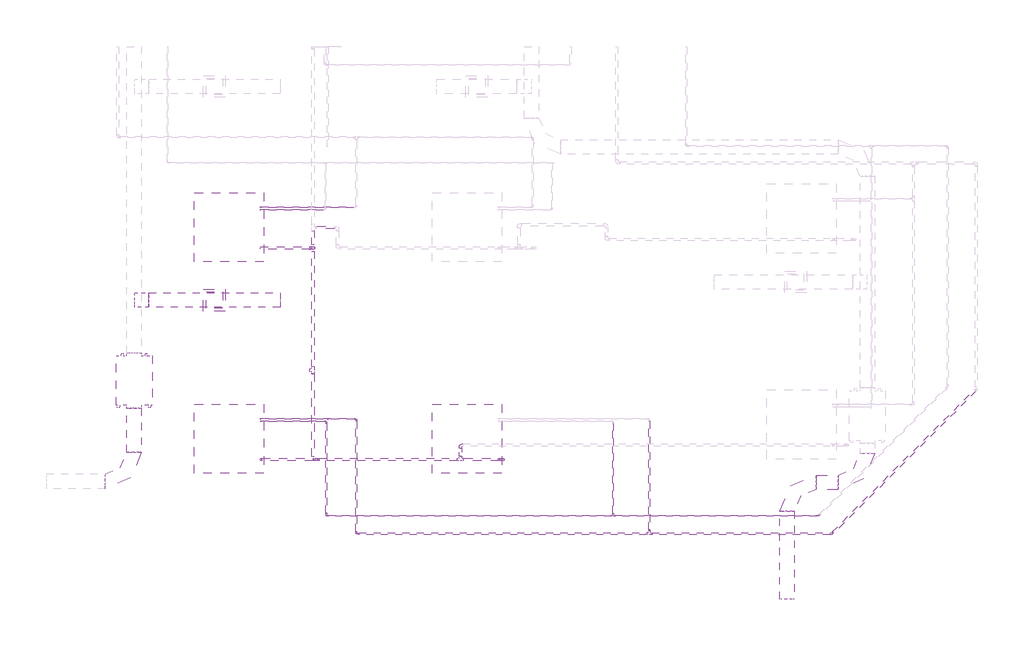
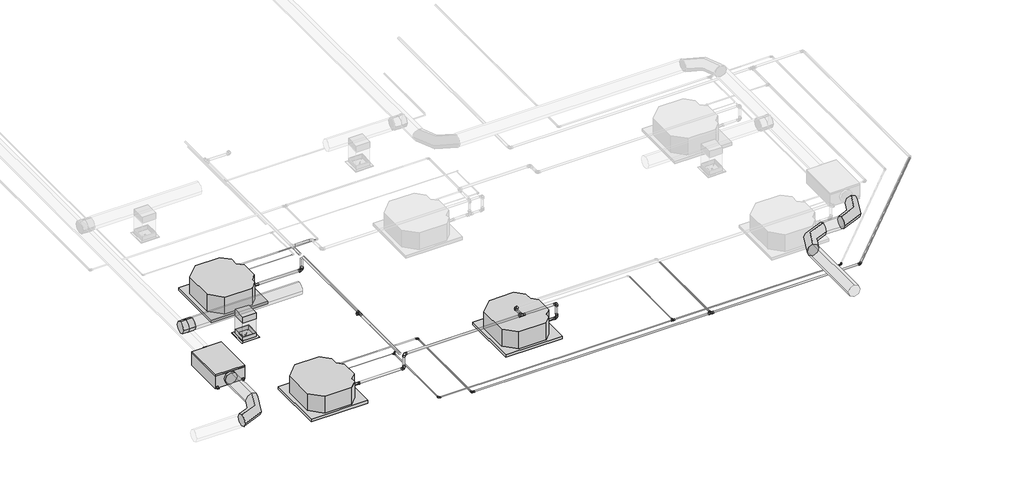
# One storey, part 9 of 21: 28 pipe fittings, 26 pipe segments, 5 duct fittings, 5 duct segments, 4 proxies, 1 air terminal.
"""IFC4 building model written with IfcOpenShell, lengths in millimetres."""

from ifc_helpers import new_model, si_unit, point, frame, frame_2d, origin, place, context, project, spatial, polyline, circle_curve, trimmed, segment, composite_curve, outline, extrude, transform, mapped, element, save
from components import sdq3535_a75e83f7, mechanical_equipment_53173f38, fh_fh_200_396573c7, duct_fitting_1aed30ea, duct_fitting_4c01d837, duct_fitting_2_d_646eede3, pipe_fitting_e2d793b1, pipe_fitting_535881cf, pipe_fitting_3e2a63ee, pipe_fitting_ec53ccd8, pipe_fitting_738abc8c, pipe_fitting_6f49f867, pipe_fitting_5bd27a37, pipe_fitting_182e23ec, pipe_fitting_5f087375, pipe_fitting_c900cfc2, pipe_fitting_16c020f5, pipe_fitting_b10472de, pipe_fitting_a9265b51, pipe_fitting_501e5992, pipe_fitting_59d1f3e3, pipe_fitting_648138cd, pipe_fitting_58ab9b66, pipe_fitting_ae0032d9, pipe_fitting_af483176, pipe_fitting_cbda5a7c

model = new_model("IFC4")

# Units and contexts
model_context = context("Model", 3, world=origin())
ifc_project = project(units=[si_unit("LENGTHUNIT", "METRE", prefix="MILLI")], contexts=[model_context])

# Site, building, storey
site = spatial("IfcSite", under=ifc_project)
building = spatial("IfcBuilding", under=site)
storey = spatial("IfcBuildingStorey", under=building, Name="Nível 1", Elevation=0.0)

# Air terminal
placement = place(None, origin())
sdq3535_shape = sdq3535_a75e83f7(model_context)
element("IfcAirTerminal", 1, ObjectType="11 - Difusor Quadrado : SDQ3535", at=placement, inside=storey, context=model_context, shape_type="MappedRepresentation", body=[
    mapped(sdq3535_shape, transform((20342.4289049, -5817.2774901, 3000.0), x_axis=(0.0, -1.0, 0.0), y_axis=(1.0, 0.0, 0.0), z_axis=(0.0, 0.0, 1.0))),
])

# Proxies
mechanical_equipment_shape = mechanical_equipment_53173f38(model_context)
element("IfcBuildingElementProxy", 2, Name="Midea_VRF_Indoor_4-way Cassette_MI-90(100,112,140)Q4_DHN1-D (2nd DC) : MI2-140Q4DHN1", ObjectType="Midea_VRF_Indoor_4-way Cassette_MI-90(100,112,140)Q4_DHN1-D (2nd DC) : MI2-140Q4DHN1", at=placement, inside=storey, context=model_context, shape_type="MappedRepresentation", body=[
    mapped(mechanical_equipment_shape, transform((23805.0530733, -7716.980613, 3000.0), x_axis=(1.0, 0.0, 0.0), y_axis=(0.0, 1.0, 0.0), z_axis=(0.0, 0.0, 1.0))),
])
element("IfcBuildingElementProxy", 3, Name="Midea_VRF_Indoor_4-way Cassette_MI-90(100,112,140)Q4_DHN1-D (2nd DC) : MI2-140Q4DHN1", ObjectType="Midea_VRF_Indoor_4-way Cassette_MI-90(100,112,140)Q4_DHN1-D (2nd DC) : MI2-140Q4DHN1", at=placement, inside=storey, context=model_context, shape_type="MappedRepresentation", body=[
    mapped(mechanical_equipment_shape, transform((20543.048092, -7716.980613, 3000.0), x_axis=(1.0, 0.0, 0.0), y_axis=(0.0, 1.0, 0.0), z_axis=(0.0, 0.0, 1.0))),
])
element("IfcBuildingElementProxy", 4, Name="Midea_VRF_Indoor_4-way Cassette_MI-90(100,112,140)Q4_DHN1-D (2nd DC) : MI2-140Q4DHN1", ObjectType="Midea_VRF_Indoor_4-way Cassette_MI-90(100,112,140)Q4_DHN1-D (2nd DC) : MI2-140Q4DHN1", at=placement, inside=storey, context=model_context, shape_type="MappedRepresentation", body=[
    mapped(mechanical_equipment_shape, transform((20543.048092, -4816.980613, 3000.0), x_axis=(1.0, 0.0, 0.0), y_axis=(0.0, 1.0, 0.0), z_axis=(0.0, 0.0, 1.0))),
])
fh_fh_200_shape = fh_fh_200_396573c7(model_context)
element("IfcBuildingElementProxy", 5, Name="FH : FH 200", ObjectType="FH : FH 200", at=placement, inside=storey, context=model_context, shape_type="MappedRepresentation", body=[
    mapped(fh_fh_200_shape, transform((19241.8789049, -6918.7123683, 3400.0), x_axis=(1.0, 0.0, 0.0), y_axis=(0.0, 1.0, 0.0), z_axis=(0.0, 0.0, 1.0))),
])

# Duct fittings
duct_fitting_shape = duct_fitting_1aed30ea(model_context)
element("IfcDuctFitting", 6, ObjectType="M_Encaixe de duto redondo : Padrão", at=placement, inside=storey, context=model_context, shape_type="MappedRepresentation", body=[
    mapped(duct_fitting_shape, transform((19341.3789049, -5817.2774901, 3521.0), x_axis=(1.0, 0.0, 0.0), y_axis=(0.0, -1.0, 0.0), z_axis=(0.0, 0.0, -1.0))),
])
duct_fitting_2_shape = duct_fitting_4c01d837(model_context)
element("IfcDuctFitting", 7, ObjectType="M_Encaixe de duto retangular : Padrão", at=placement, inside=storey, context=model_context, shape_type="MappedRepresentation", body=[
    mapped(duct_fitting_2_shape, transform((20342.4289049, -5817.2774901, 3421.5), x_axis=(0.0, 0.0, -1.0), y_axis=(-1.0, 0.0, 0.0), z_axis=(0.0, 1.0, 0.0))),
])
duct_fitting_2_d_shape = duct_fitting_2_d_646eede3(model_context)
element("IfcDuctFitting", 8, ObjectType="M_Cotovelo redondo : 2 D", at=placement, inside=storey, context=model_context, shape_type="MappedRepresentation", body=[
    mapped(duct_fitting_2_d_shape, transform((19241.8789049, -8298.7123683, 3521.0), x_axis=(1.0, 0.0, 0.0), y_axis=(0.0, 1.0, 0.0), z_axis=(0.0, 0.0, 1.0))),
])
element("IfcDuctFitting", 9, ObjectType="M_Cotovelo redondo : 2 D", at=placement, inside=storey, context=model_context, shape_type="MappedRepresentation", body=[
    mapped(duct_fitting_2_d_shape, transform((29288.6034633, -8313.4180027, 3521.0), x_axis=(1.0, 0.0, 0.0), y_axis=(0.0, 1.0, 0.0), z_axis=(0.0, 0.0, 1.0))),
])
element("IfcDuctFitting", 10, ObjectType="M_Cotovelo redondo : 2 D", at=placement, inside=storey, context=model_context, shape_type="MappedRepresentation", body=[
    mapped(duct_fitting_2_d_shape, transform((28188.6034633, -8313.4180027, 3521.0), x_axis=(-1.0, 0.0, 0.0), y_axis=(0.0, -1.0, 0.0), z_axis=(0.0, 0.0, 1.0))),
])

# Duct segments
element("IfcDuctSegment", 11, ObjectType="Torneiras / Raio curto", at=placement, inside=storey, context=model_context, shape_type="SweptSolid", body=[
    extrude(outline(composite_curve([segment(trimmed(circle_curve(frame_2d((3521.0, 19241.8789049)), 99.5), [point((3521.0, 19142.3789049))], [point((3421.5, 19241.8789049))], False, "CARTESIAN"), True, "CONTINUOUS"), segment(trimmed(circle_curve(frame_2d((3521.0, 19241.8789049)), 99.5), [point((3421.5, 19241.8789049))], [point((3521.0, 19341.3789049))], False, "CARTESIAN"), True, "CONTINUOUS"), segment(trimmed(circle_curve(frame_2d((3521.0, 19241.8789049)), 99.5), [point((3521.0, 19341.3789049))], [point((3620.5, 19241.8789049))], False, "CARTESIAN"), True, "CONTINUOUS"), segment(trimmed(circle_curve(frame_2d((3521.0, 19241.8789049)), 99.5), [point((3620.5, 19241.8789049))], [point((3521.0, 19142.3789049))], False, "CARTESIAN"), True, "CONTINUOUS")], self_intersect=False)), frame((0.0, -7900.7123683, 0.0), z_axis=(0.0, 1.0, 0.0), x_axis=(0.0, 0.0, 1.0)), (0.0, 0.0, 1.0), 602.0),
])
element("IfcDuctSegment", 12, ObjectType="Torneiras / Raio curto", at=placement, inside=storey, context=model_context, shape_type="SweptSolid", body=[
    extrude(outline(composite_curve([segment(trimmed(circle_curve(frame_2d((-8313.4180027, 3521.0)), 99.5), [point((-8213.9180027, 3521.0))], [point((-8313.4180027, 3421.5))], False, "CARTESIAN"), True, "CONTINUOUS"), segment(trimmed(circle_curve(frame_2d((-8313.4180027, 3521.0)), 99.5), [point((-8313.4180027, 3421.5))], [point((-8412.9180027, 3521.0))], False, "CARTESIAN"), True, "CONTINUOUS"), segment(trimmed(circle_curve(frame_2d((-8313.4180027, 3521.0)), 99.5), [point((-8412.9180027, 3521.0))], [point((-8313.4180027, 3620.5))], False, "CARTESIAN"), True, "CONTINUOUS"), segment(trimmed(circle_curve(frame_2d((-8313.4180027, 3521.0)), 99.5), [point((-8313.4180027, 3620.5))], [point((-8213.9180027, 3521.0))], False, "CARTESIAN"), True, "CONTINUOUS")], self_intersect=False)), frame((28586.6034633, 0.0, 0.0), z_axis=(1.0, 0.0, 0.0), x_axis=(0.0, 1.0, 0.0)), (0.0, 0.0, 1.0), 304.0),
])
element("IfcDuctSegment", 13, ObjectType="Torneiras / Raio curto", at=placement, inside=storey, context=model_context, shape_type="SweptSolid", body=[
    extrude(outline(composite_curve([segment(trimmed(circle_curve(frame_2d((3521.0, 28188.6034633)), 99.5), [point((3521.0, 28089.1034633))], [point((3421.5, 28188.6034633))], False, "CARTESIAN"), True, "CONTINUOUS"), segment(trimmed(circle_curve(frame_2d((3521.0, 28188.6034633)), 99.5), [point((3421.5, 28188.6034633))], [point((3521.0, 28288.1034633))], False, "CARTESIAN"), True, "CONTINUOUS"), segment(trimmed(circle_curve(frame_2d((3521.0, 28188.6034633)), 99.5), [point((3521.0, 28288.1034633))], [point((3620.5, 28188.6034633))], False, "CARTESIAN"), True, "CONTINUOUS"), segment(trimmed(circle_curve(frame_2d((3521.0, 28188.6034633)), 99.5), [point((3620.5, 28188.6034633))], [point((3521.0, 28089.1034633))], False, "CARTESIAN"), True, "CONTINUOUS")], self_intersect=False)), frame((0.0, -9913.4180027, 0.0), z_axis=(0.0, 1.0, 0.0), x_axis=(0.0, 0.0, 1.0)), (0.0, 0.0, 1.0), 1202.0),
])
element("IfcDuctSegment", 14, ObjectType="Torneiras / Raio curto", at=placement, inside=storey, context=model_context, shape_type="SweptSolid", body=[
    extrude(outline(composite_curve([segment(trimmed(circle_curve(frame_2d((-5817.2774901, 3521.0)), 99.5), [point((-5916.7774901, 3521.0))], [point((-5817.2774901, 3620.5))], False, "CARTESIAN"), True, "CONTINUOUS"), segment(trimmed(circle_curve(frame_2d((-5817.2774901, 3521.0)), 99.5), [point((-5817.2774901, 3620.5))], [point((-5717.7774901, 3521.0))], False, "CARTESIAN"), True, "CONTINUOUS"), segment(trimmed(circle_curve(frame_2d((-5817.2774901, 3521.0)), 99.5), [point((-5717.7774901, 3521.0))], [point((-5817.2774901, 3421.5))], False, "CARTESIAN"), True, "CONTINUOUS"), segment(trimmed(circle_curve(frame_2d((-5817.2774901, 3521.0)), 99.5), [point((-5817.2774901, 3421.5))], [point((-5916.7774901, 3521.0))], False, "CARTESIAN"), True, "CONTINUOUS")], self_intersect=False)), frame((19442.9789049, 0.0, 0.0), z_axis=(1.0, 0.0, 0.0), x_axis=(0.0, 1.0, 0.0)), (0.0, 0.0, 1.0), 1798.9),
])
element("IfcDuctSegment", 15, ObjectType="Raios cotovelos / torneiras", at=placement, inside=storey, context=model_context, shape_type="SweptSolid", body=[
    extrude(outline(polyline([(20454.9289049, -5929.7774901), (20229.9289049, -5929.7774901), (20229.9289049, -5704.7774901), (20454.9289049, -5704.7774901), (20454.9289049, -5929.7774901)])), frame((0.0, 0.0, 3005.0), z_axis=(0.0, 0.0, 1.0), x_axis=(1.0, 0.0, 0.0)), (0.0, 0.0, 1.0), 314.9),
])

# Pipe fittings
pipe_fitting_shape = pipe_fitting_e2d793b1(model_context)
element("IfcPipeFitting", 16, ObjectType="Bucha de redução reta - Soldada - CU : Padrão", at=placement, inside=storey, context=model_context, shape_type="MappedRepresentation", body=[
    mapped(pipe_fitting_shape, transform((24297.0530815, -8001.980613, 3293.8685101), x_axis=(0.0, 0.0, 1.0), y_axis=(0.0, -1.0, 0.0), z_axis=(1.0, 0.0, 0.0))),
])
pipe_fitting_2_shape = pipe_fitting_535881cf(model_context)
element("IfcPipeFitting", 17, ObjectType="Cotovelo - Soldado - CU : Padrão", at=placement, inside=storey, context=model_context, shape_type="MappedRepresentation", body=[
    mapped(pipe_fitting_2_shape, transform((24297.0530815, -8001.980613, 3500.0), x_axis=(0.0, 0.0, 1.0), y_axis=(-1.0, 0.0, 0.0), z_axis=(0.0, -1.0, 0.0))),
])
element("IfcPipeFitting", 18, ObjectType="Cotovelo - Soldado - CU : Padrão", at=placement, inside=storey, context=model_context, shape_type="MappedRepresentation", body=[
    mapped(pipe_fitting_2_shape, transform((21736.9015024, -8001.980613, 3500.0), x_axis=(-1.0, 0.0, 0.0), y_axis=(0.0, 0.0, -1.0), z_axis=(0.0, -1.0, 0.0))),
])
element("IfcPipeFitting", 19, ObjectType="Cotovelo - Soldado - CU : Padrão", at=placement, inside=storey, context=model_context, shape_type="MappedRepresentation", body=[
    mapped(pipe_fitting_2_shape, transform((23713.6034631, -7804.1233987, 3500.0), x_axis=(-1.0, 0.0, 0.0), y_axis=(0.0, -1.0, 0.0), z_axis=(0.0, 0.0, 1.0))),
])
pipe_fitting_3_shape = pipe_fitting_3e2a63ee(model_context)
element("IfcPipeFitting", 20, ObjectType="Tê - Soldado - CU : Padrão", at=placement, inside=storey, context=model_context, shape_type="MappedRepresentation", body=[
    mapped(pipe_fitting_3_shape, transform((23713.6034631, -8001.980613, 3500.0), x_axis=(1.0, 0.0, 0.0), y_axis=(0.0, -1.0, 0.0), z_axis=(0.0, 0.0, -1.0))),
])
element("IfcPipeFitting", 21, ObjectType="Tê - Soldado - CU : Padrão", at=placement, inside=storey, context=model_context, shape_type="MappedRepresentation", body=[
    mapped(pipe_fitting_3_shape, transform((21695.3015024, -6776.8929123, 3500.0), x_axis=(0.0, 1.0, 0.0), y_axis=(1.0, 0.0, 0.0), z_axis=(0.0, 0.0, -1.0))),
])
pipe_fitting_4_shape = pipe_fitting_ec53ccd8(model_context)
element("IfcPipeFitting", 22, ObjectType="Bucha de redução reta - Soldada - CU : Padrão", at=placement, inside=storey, context=model_context, shape_type="MappedRepresentation", body=[
    mapped(pipe_fitting_4_shape, transform((20988.288092, -8001.980613, 3252.30828), x_axis=(-0.9999999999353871, 0.0, 1.1367754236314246e-05), y_axis=(0.0, -1.0, 0.0), z_axis=(1.1367754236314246e-05, 0.0, 0.9999999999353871))),
])
pipe_fitting_5_shape = pipe_fitting_738abc8c(model_context)
element("IfcPipeFitting", 23, ObjectType="Cotovelo - Soldado - CU : Padrão", at=placement, inside=storey, context=model_context, shape_type="MappedRepresentation", body=[
    mapped(pipe_fitting_5_shape, transform((24297.0530815, -8001.980613, 3252.3085101), x_axis=(1.0, 0.0, 0.0), y_axis=(0.0, 0.0, 1.0), z_axis=(0.0, -1.0, 0.0))),
])
pipe_fitting_6_shape = pipe_fitting_6f49f867(model_context)
element("IfcPipeFitting", 24, ObjectType="Cotovelo - Soldado - CU : Padrão", at=placement, inside=storey, context=model_context, shape_type="MappedRepresentation", body=[
    mapped(pipe_fitting_6_shape, transform((21736.9015024, -8001.980613, 3252.3), x_axis=(0.0, 0.0, -1.0), y_axis=(-1.0, 0.0, 0.0), z_axis=(0.0, 1.0, 0.0))),
])
pipe_fitting_7_shape = pipe_fitting_5bd27a37(model_context)
element("IfcPipeFitting", 25, ObjectType="Cotovelo - PVC - CW : Padrão", at=placement, inside=storey, context=model_context, shape_type="MappedRepresentation", body=[
    mapped(pipe_fitting_7_shape, transform((21695.3015024, -5101.980613, 3252.2997902), x_axis=(0.0, 0.0, -1.0), y_axis=(-1.0, 0.0, 0.0), z_axis=(0.0, 1.0, 0.0))),
])
pipe_fitting_8_shape = pipe_fitting_182e23ec(model_context)
element("IfcPipeFitting", 26, ObjectType="Bucha de redução reta - Soldada - CU : Padrão", at=placement, inside=storey, context=model_context, shape_type="MappedRepresentation", body=[
    mapped(pipe_fitting_8_shape, transform((26301.0744733, -8978.9712285, 3246.8002101), x_axis=(0.0, 0.9999999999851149, 5.456206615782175e-06), y_axis=(-1.0, 0.0, 0.0), z_axis=(0.0, -5.456206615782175e-06, 0.9999999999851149))),
])
element("IfcPipeFitting", 27, ObjectType="Bucha de redução reta - Soldada - CU : Padrão", at=placement, inside=storey, context=model_context, shape_type="MappedRepresentation", body=[
    mapped(pipe_fitting_8_shape, transform((22327.0637066, -9017.4712285, 3246.7999612), x_axis=(-1.0, 0.0, 0.0), y_axis=(0.0, -1.0, 0.0), z_axis=(0.0, 0.0, 1.0))),
])
pipe_fitting_9_shape = pipe_fitting_5f087375(model_context)
element("IfcPipeFitting", 28, ObjectType="Cotovelo - Soldado - CU : Padrão", at=placement, inside=storey, context=model_context, shape_type="MappedRepresentation", body=[
    mapped(pipe_fitting_9_shape, transform((28803.6092462, -9017.4712285, 3246.8), x_axis=(1.0, 0.0, 0.0), y_axis=(0.0, 1.0, 0.0), z_axis=(0.0, 0.0, 1.0))),
])
pipe_fitting_10_shape = pipe_fitting_c900cfc2(model_context)
element("IfcPipeFitting", 29, ObjectType="Bucha de redução reta - Soldada - CU : Padrão", at=placement, inside=storey, context=model_context, shape_type="MappedRepresentation", body=[
    mapped(pipe_fitting_10_shape, transform((20968.048092, -7443.7697994, 3252.3085101), x_axis=(1.0, 0.0, 0.0), y_axis=(0.0, 1.0, 0.0), z_axis=(0.0, 0.0, 1.0))),
])
pipe_fitting_11_shape = pipe_fitting_16c020f5(model_context)
element("IfcPipeFitting", 30, ObjectType="Cotovelo - Soldado - CU : Padrão", at=placement, inside=storey, context=model_context, shape_type="MappedRepresentation", body=[
    mapped(pipe_fitting_11_shape, transform((21873.6902777, -8771.0631958, 3146.8000002), x_axis=(0.0, -0.999999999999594, -9.011603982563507e-07), y_axis=(1.0, 0.0, 0.0), z_axis=(0.0, -9.011603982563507e-07, 0.999999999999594))),
])
element("IfcPipeFitting", 31, ObjectType="Cotovelo - Soldado - CU : Padrão", at=placement, inside=storey, context=model_context, shape_type="MappedRepresentation", body=[
    mapped(pipe_fitting_11_shape, transform((22285.4262066, -7443.7697994, 3252.3085101), x_axis=(0.0, 0.9999938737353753, 0.0035003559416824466), y_axis=(-1.0000000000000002, 0.0, 0.0), z_axis=(0.0, -0.0035003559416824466, 0.9999938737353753))),
])
element("IfcPipeFitting", 32, ObjectType="Cotovelo - Soldado - CU : Padrão", at=placement, inside=storey, context=model_context, shape_type="MappedRepresentation", body=[
    mapped(pipe_fitting_11_shape, transform((22285.4262066, -9017.4712285, 3246.7999612), x_axis=(0.0, -0.9999938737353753, -0.0035003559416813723), y_axis=(1.0000000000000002, 0.0, 0.0), z_axis=(0.0, -0.0035003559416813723, 0.9999938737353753))),
])
pipe_fitting_12_shape = pipe_fitting_b10472de(model_context)
element("IfcPipeFitting", 33, ObjectType="Tê - Soldado - CU : Padrão", at=placement, inside=storey, context=model_context, shape_type="MappedRepresentation", body=[
    mapped(pipe_fitting_12_shape, transform((25806.0274724, -8771.0631958, 3146.8), x_axis=(1.0, 0.0, 0.0), y_axis=(0.0, -0.9999999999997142, -7.559757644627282e-07), z_axis=(0.0, 7.559757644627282e-07, -0.9999999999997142))),
])
pipe_fitting_13_shape = pipe_fitting_a9265b51(model_context)
element("IfcPipeFitting", 34, ObjectType="Cotovelo - Soldado - CU : Padrão", at=placement, inside=storey, context=model_context, shape_type="MappedRepresentation", body=[
    mapped(pipe_fitting_13_shape, transform((28621.4224592, -8771.0631958, 3146.8), x_axis=(1.0, 0.0, 0.0), y_axis=(0.0, 1.0, 0.0), z_axis=(0.0, 0.0, 1.0))),
])
pipe_fitting_14_shape = pipe_fitting_501e5992(model_context)
element("IfcPipeFitting", 35, ObjectType="Bucha de redução reta - Soldada - CU : Padrão", at=placement, inside=storey, context=model_context, shape_type="MappedRepresentation", body=[
    mapped(pipe_fitting_14_shape, transform((20980.706992, -4543.7697994, 3252.3085101), x_axis=(-1.0, 0.0, 0.0), y_axis=(0.0, -1.0, 0.0), z_axis=(0.0, 0.0, 1.0))),
])
pipe_fitting_15_shape = pipe_fitting_59d1f3e3(model_context)
element("IfcPipeFitting", 36, ObjectType="Bucha de redução reta - Soldada - CU : Padrão", at=placement, inside=storey, context=model_context, shape_type="MappedRepresentation", body=[
    mapped(pipe_fitting_15_shape, transform((20968.048092, -7477.5722412, 3146.8446487), x_axis=(1.0, 0.0, 0.0), y_axis=(0.0, 1.0, 0.0), z_axis=(0.0, 0.0, 1.0))),
])
pipe_fitting_16_shape = pipe_fitting_648138cd(model_context)
element("IfcPipeFitting", 37, ObjectType="Cotovelo - Soldado - CU : Padrão", at=placement, inside=storey, context=model_context, shape_type="MappedRepresentation", body=[
    mapped(pipe_fitting_16_shape, transform((21873.6902777, -7477.5722412, 3146.8011659), x_axis=(0.0, 0.999999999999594, 9.011603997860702e-07), y_axis=(-0.9999999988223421, -4.373475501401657e-11, 4.853159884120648e-05), z_axis=(4.8531598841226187e-05, -9.011603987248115e-07, 0.999999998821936))),
])
pipe_fitting_17_shape = pipe_fitting_58ab9b66(model_context)
element("IfcPipeFitting", 38, ObjectType="Bucha de redução reta - Soldada - CU : Padrão", at=placement, inside=storey, context=model_context, shape_type="MappedRepresentation", body=[
    mapped(pipe_fitting_17_shape, transform((20977.7224919, -4577.5722412, 3146.8441792), x_axis=(-0.999999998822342, 0.0, 4.85315988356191e-05), y_axis=(0.0, -1.0000000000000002, 0.0), z_axis=(4.85315988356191e-05, 0.0, 0.999999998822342))),
])
pipe_fitting_18_shape = pipe_fitting_ae0032d9(model_context)
element("IfcPipeFitting", 39, ObjectType="Tê - Soldado - CU : Padrão", at=placement, inside=storey, context=model_context, shape_type="MappedRepresentation", body=[
    mapped(pipe_fitting_18_shape, transform((26301.0744733, -9017.4712285, 3246.8), x_axis=(1.0, 0.0, 0.0), y_axis=(0.0, -0.9999999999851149, -5.456206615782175e-06), z_axis=(0.0, 5.456206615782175e-06, -0.9999999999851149))),
])
pipe_fitting_19_shape = pipe_fitting_af483176(model_context)
element("IfcPipeFitting", 40, ObjectType="Bucha de redução reta - Soldada - CU : Padrão", at=placement, inside=storey, context=model_context, shape_type="MappedRepresentation", body=[
    mapped(pipe_fitting_19_shape, transform((21897.7158777, -7453.5466412, 3146.8), x_axis=(0.0, 1.0, 0.0), y_axis=(-0.999999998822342, 0.0, 4.8531598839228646e-05), z_axis=(4.8531598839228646e-05, 0.0, 0.999999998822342))),
])
pipe_fitting_20_shape = pipe_fitting_cbda5a7c(model_context)
element("IfcPipeFitting", 41, ObjectType="Bucha de redução reta - Soldada - CU : Padrão", at=placement, inside=storey, context=model_context, shape_type="MappedRepresentation", body=[
    mapped(pipe_fitting_20_shape, transform((25806.0274724, -8743.4784958, 3146.8000209), x_axis=(0.0, 0.9999999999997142, 7.559757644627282e-07), y_axis=(-1.0, 0.0, 0.0), z_axis=(0.0, -7.559757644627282e-07, 0.9999999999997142))),
])
element("IfcPipeFitting", 42, ObjectType="Bucha de redução reta - Soldada - CU : Padrão", at=placement, inside=storey, context=model_context, shape_type="MappedRepresentation", body=[
    mapped(pipe_fitting_20_shape, transform((21873.6902777, -8743.4784958, 3146.800025), x_axis=(0.0, 0.9999999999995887, 9.070011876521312e-07), y_axis=(-1.0, 0.0, 0.0), z_axis=(0.0, -9.070011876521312e-07, 0.9999999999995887))),
])
element("IfcPipeFitting", 43, ObjectType="Bucha de redução reta - Soldada - CU : Padrão", at=placement, inside=storey, context=model_context, shape_type="MappedRepresentation", body=[
    mapped(pipe_fitting_20_shape, transform((21873.6902777, -8742.0845958, 3146.8000263), x_axis=(0.0, 0.999999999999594, 9.011603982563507e-07), y_axis=(-1.0, 0.0, 0.0), z_axis=(0.0, -9.011603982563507e-07, 0.999999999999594))),
])

# Pipe segments
element("IfcPipeSegment", 44, ObjectType="Tubos de cobre HVAC", at=placement, inside=storey, context=model_context, shape_type="SweptSolid", body=[
    extrude(outline(composite_curve([segment(trimmed(circle_curve(frame_2d((-7443.7697994, 3252.3085101)), 7.935), [point((-7451.7047994, 3252.3085101))], [point((-7443.7697994, 3260.2435101))], False, "CARTESIAN"), True, "CONTINUOUS"), segment(trimmed(circle_curve(frame_2d((-7443.7697994, 3252.3085101)), 7.935), [point((-7443.7697994, 3260.2435101))], [point((-7435.8347994, 3252.3085101))], False, "CARTESIAN"), True, "CONTINUOUS"), segment(trimmed(circle_curve(frame_2d((-7443.7697994, 3252.3085101)), 7.935), [point((-7435.8347994, 3252.3085101))], [point((-7443.7697994, 3244.3735101))], False, "CARTESIAN"), True, "CONTINUOUS"), segment(trimmed(circle_curve(frame_2d((-7443.7697994, 3252.3085101)), 7.935), [point((-7443.7697994, 3244.3735101))], [point((-7451.7047994, 3252.3085101))], False, "CARTESIAN"), True, "CONTINUOUS")], self_intersect=False)), frame((20980.706992, 0.0, 0.0), z_axis=(1.0, 0.0, 0.0), x_axis=(0.0, 1.0, 0.0)), (0.0, 0.0, 1.0), 1275.7406146),
])
element("IfcPipeSegment", 45, ObjectType="Tubos de cobre HVAC", at=placement, inside=storey, context=model_context, shape_type="SweptSolid", body=[
    extrude(outline(composite_curve([segment(trimmed(circle_curve(frame_2d((-4543.7697994, 3252.3085101)), 7.935), [point((-4535.8347994, 3252.3085101))], [point((-4543.7697994, 3244.3735101))], False, "CARTESIAN"), True, "CONTINUOUS"), segment(trimmed(circle_curve(frame_2d((-4543.7697994, 3252.3085101)), 7.935), [point((-4543.7697994, 3244.3735101))], [point((-4551.7047994, 3252.3085101))], False, "CARTESIAN"), True, "CONTINUOUS"), segment(trimmed(circle_curve(frame_2d((-4543.7697994, 3252.3085101)), 7.935), [point((-4551.7047994, 3252.3085101))], [point((-4543.7697994, 3260.2435101))], False, "CARTESIAN"), True, "CONTINUOUS"), segment(trimmed(circle_curve(frame_2d((-4543.7697994, 3252.3085101)), 7.935), [point((-4543.7697994, 3260.2435101))], [point((-4535.8347994, 3252.3085101))], False, "CARTESIAN"), True, "CONTINUOUS")], self_intersect=False)), frame((20980.706992, 0.0, 0.0), z_axis=(1.0, 0.0, 0.0), x_axis=(0.0, 1.0, 0.0)), (0.0, 0.0, 1.0), 1277.1345146),
])
element("IfcPipeSegment", 46, ObjectType="Tubos de cobre HVAC", at=placement, inside=storey, context=model_context, shape_type="SweptSolid", body=[
    extrude(outline(composite_curve([segment(trimmed(circle_curve(frame_2d((0.0, -4.76)), 4.76), [point((-4.76, -4.76))], [point((0.0, 0.0))], False, "CARTESIAN"), True, "CONTINUOUS"), segment(trimmed(circle_curve(frame_2d((0.0, -4.76)), 4.76), [point((0.0, 0.0))], [point((4.76, -4.76))], False, "CARTESIAN"), True, "CONTINUOUS"), segment(trimmed(circle_curve(frame_2d((0.0, -4.76)), 4.76), [point((4.76, -4.76))], [point((0.0, -9.52))], False, "CARTESIAN"), True, "CONTINUOUS"), segment(trimmed(circle_curve(frame_2d((0.0, -4.76)), 4.76), [point((0.0, -9.52))], [point((-4.76, -4.76))], False, "CARTESIAN"), True, "CONTINUOUS")], self_intersect=False)), frame((21849.6644467, -7477.5722412, 3142.042332), z_axis=(-0.999999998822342, 0.0, 4.85315986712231e-05), x_axis=(0.0, 1.0, 0.0)), (0.0, 0.0, 1.0), 871.9421868),
])
element("IfcPipeSegment", 47, ObjectType="Tubos de cobre HVAC", at=placement, inside=storey, context=model_context, shape_type="SweptSolid", body=[
    extrude(outline(composite_curve([segment(trimmed(circle_curve(frame_2d((0.0, 4.76)), 4.76), [point((-4.76, 4.76))], [point((0.0, 9.52))], False, "CARTESIAN"), True, "CONTINUOUS"), segment(trimmed(circle_curve(frame_2d((0.0, 4.76)), 4.76), [point((0.0, 9.52))], [point((4.76, 4.76))], False, "CARTESIAN"), True, "CONTINUOUS"), segment(trimmed(circle_curve(frame_2d((0.0, 4.76)), 4.76), [point((4.76, 4.76))], [point((0.0, 0.0))], False, "CARTESIAN"), True, "CONTINUOUS"), segment(trimmed(circle_curve(frame_2d((0.0, 4.76)), 4.76), [point((0.0, 0.0))], [point((-4.76, 4.76))], False, "CARTESIAN"), True, "CONTINUOUS")], self_intersect=False)), frame((21838.9986493, -4577.5722412, 3142.0428369), z_axis=(-0.9999999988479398, 0.0, 4.8001255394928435e-05), x_axis=(0.0, -1.0, 0.0)), (0.0, 0.0, 1.0), 861.2763868),
])
element("IfcPipeSegment", 48, ObjectType="Tubos de cobre HVAC", at=placement, inside=storey, context=model_context, shape_type="SweptSolid", body=[
    extrude(outline(composite_curve([segment(trimmed(circle_curve(frame_2d((-8001.980613, 3500.0)), 17.5), [point((-7984.480613, 3500.0))], [point((-8001.980613, 3482.5))], False, "CARTESIAN"), True, "CONTINUOUS"), segment(trimmed(circle_curve(frame_2d((-8001.980613, 3500.0)), 17.5), [point((-8001.980613, 3482.5))], [point((-8019.480613, 3500.0))], False, "CARTESIAN"), True, "CONTINUOUS"), segment(trimmed(circle_curve(frame_2d((-8001.980613, 3500.0)), 17.5), [point((-8019.480613, 3500.0))], [point((-8001.980613, 3517.5))], False, "CARTESIAN"), True, "CONTINUOUS"), segment(trimmed(circle_curve(frame_2d((-8001.980613, 3500.0)), 17.5), [point((-8001.980613, 3517.5))], [point((-7984.480613, 3500.0))], False, "CARTESIAN"), True, "CONTINUOUS")], self_intersect=False)), frame((21778.5015024, 0.0, 0.0), z_axis=(1.0, 0.0, 0.0), x_axis=(0.0, 1.0, 0.0)), (0.0, 0.0, 1.0), 1888.3519607),
])
element("IfcPipeSegment", 49, ObjectType="Tubos de cobre HVAC", at=placement, inside=storey, context=model_context, shape_type="SweptSolid", body=[
    extrude(outline(composite_curve([segment(trimmed(circle_curve(frame_2d((-8001.980613, 3252.3085101)), 16.0), [point((-8017.980613, 3252.3085101))], [point((-8001.980613, 3268.3085101))], False, "CARTESIAN"), True, "CONTINUOUS"), segment(trimmed(circle_curve(frame_2d((-8001.980613, 3252.3085101)), 16.0), [point((-8001.980613, 3268.3085101))], [point((-7985.980613, 3252.3085101))], False, "CARTESIAN"), True, "CONTINUOUS"), segment(trimmed(circle_curve(frame_2d((-8001.980613, 3252.3085101)), 16.0), [point((-7985.980613, 3252.3085101))], [point((-8001.980613, 3236.3085101))], False, "CARTESIAN"), True, "CONTINUOUS"), segment(trimmed(circle_curve(frame_2d((-8001.980613, 3252.3085101)), 16.0), [point((-8001.980613, 3236.3085101))], [point((-8017.980613, 3252.3085101))], False, "CARTESIAN"), True, "CONTINUOUS")], self_intersect=False)), frame((24230.0530733, 0.0, 0.0), z_axis=(1.0, 0.0, 0.0), x_axis=(0.0, 1.0, 0.0)), (0.0, 0.0, 1.0), 25.4400082),
])
element("IfcPipeSegment", 50, ObjectType="Tubos de cobre HVAC", at=placement, inside=storey, context=model_context, shape_type="SweptSolid", body=[
    extrude(outline(composite_curve([segment(trimmed(circle_curve(frame_2d((24297.0530815, -8001.980613)), 17.5), [point((24279.5530815, -8001.980613))], [point((24297.0530815, -7984.480613))], False, "CARTESIAN"), True, "CONTINUOUS"), segment(trimmed(circle_curve(frame_2d((24297.0530815, -8001.980613)), 17.5), [point((24297.0530815, -7984.480613))], [point((24314.5530815, -8001.980613))], False, "CARTESIAN"), True, "CONTINUOUS"), segment(trimmed(circle_curve(frame_2d((24297.0530815, -8001.980613)), 17.5), [point((24314.5530815, -8001.980613))], [point((24297.0530815, -8019.480613))], False, "CARTESIAN"), True, "CONTINUOUS"), segment(trimmed(circle_curve(frame_2d((24297.0530815, -8001.980613)), 17.5), [point((24297.0530815, -8019.480613))], [point((24279.5530815, -8001.980613))], False, "CARTESIAN"), True, "CONTINUOUS")], self_intersect=False)), frame((0.0, 0.0, 3314.1085101), z_axis=(0.0, 0.0, 1.0), x_axis=(1.0, 0.0, 0.0)), (0.0, 0.0, 1.0), 144.2914899),
])
element("IfcPipeSegment", 51, ObjectType="Tubos de cobre HVAC", at=placement, inside=storey, context=model_context, shape_type="SweptSolid", body=[
    extrude(outline(composite_curve([segment(trimmed(circle_curve(frame_2d((0.0, 17.5)), 17.5), [point((-17.5, 17.5))], [point((0.0, 35.0))], False, "CARTESIAN"), True, "CONTINUOUS"), segment(trimmed(circle_curve(frame_2d((0.0, 17.5)), 17.5), [point((0.0, 35.0))], [point((17.5, 17.5))], False, "CARTESIAN"), True, "CONTINUOUS"), segment(trimmed(circle_curve(frame_2d((0.0, 17.5)), 17.5), [point((17.5, 17.5))], [point((0.0, 0.0))], False, "CARTESIAN"), True, "CONTINUOUS"), segment(trimmed(circle_curve(frame_2d((0.0, 17.5)), 17.5), [point((0.0, 0.0))], [point((-17.5, 17.5))], False, "CARTESIAN"), True, "CONTINUOUS")], self_intersect=False)), frame((21695.3013035, -8001.980613, 3234.8004729), z_axis=(-0.9999999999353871, 0.0, 1.1367754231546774e-05), x_axis=(0.0, -1.0, 0.0)), (0.0, 0.0, 1.0), 707.0134105),
])
element("IfcPipeSegment", 52, ObjectType="Tubos de cobre HVAC", at=placement, inside=storey, context=model_context, shape_type="SweptSolid", body=[
    extrude(outline(composite_curve([segment(trimmed(circle_curve(frame_2d((21736.9015024, -8001.980613)), 17.5), [point((21754.4015024, -8001.980613))], [point((21736.9015024, -8019.480613))], False, "CARTESIAN"), True, "CONTINUOUS"), segment(trimmed(circle_curve(frame_2d((21736.9015024, -8001.980613)), 17.5), [point((21736.9015024, -8019.480613))], [point((21719.4015024, -8001.980613))], False, "CARTESIAN"), True, "CONTINUOUS"), segment(trimmed(circle_curve(frame_2d((21736.9015024, -8001.980613)), 17.5), [point((21719.4015024, -8001.980613))], [point((21736.9015024, -7984.480613))], False, "CARTESIAN"), True, "CONTINUOUS"), segment(trimmed(circle_curve(frame_2d((21736.9015024, -8001.980613)), 17.5), [point((21736.9015024, -7984.480613))], [point((21754.4015024, -8001.980613))], False, "CARTESIAN"), True, "CONTINUOUS")], self_intersect=False)), frame((0.0, 0.0, 3293.9), z_axis=(0.0, 0.0, 1.0), x_axis=(1.0, 0.0, 0.0)), (0.0, 0.0, 1.0), 164.5),
])
element("IfcPipeSegment", 53, ObjectType="Plástico", at=placement, inside=storey, context=model_context, shape_type="SweptSolid", body=[
    extrude(outline(composite_curve([segment(trimmed(circle_curve(frame_2d((0.0, 20.0)), 20.0), [point((-20.0, 20.0))], [point((0.0, 40.0))], False, "CARTESIAN"), True, "CONTINUOUS"), segment(trimmed(circle_curve(frame_2d((0.0, 20.0)), 20.0), [point((0.0, 40.0))], [point((20.0, 20.0))], False, "CARTESIAN"), True, "CONTINUOUS"), segment(trimmed(circle_curve(frame_2d((0.0, 20.0)), 20.0), [point((20.0, 20.0))], [point((0.0, 0.0))], False, "CARTESIAN"), True, "CONTINUOUS"), segment(trimmed(circle_curve(frame_2d((0.0, 20.0)), 20.0), [point((0.0, 0.0))], [point((-20.0, 20.0))], False, "CARTESIAN"), True, "CONTINUOUS")], self_intersect=False)), frame((21650.3009868, -5101.980613, 3232.3003297), z_axis=(-0.9999999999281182, 0.0, 1.199015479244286e-05), x_axis=(0.0, -1.0, 0.0)), (0.0, 0.0, 1.0), 682.2531347),
])
element("IfcPipeSegment", 54, ObjectType="Plástico", at=placement, inside=storey, context=model_context, shape_type="SweptSolid", body=[
    extrude(outline(composite_curve([segment(trimmed(circle_curve(frame_2d((21695.3015024, -5101.980613)), 20.0), [point((21715.3015024, -5101.980613))], [point((21695.3015024, -5121.980613))], False, "CARTESIAN"), True, "CONTINUOUS"), segment(trimmed(circle_curve(frame_2d((21695.3015024, -5101.980613)), 20.0), [point((21695.3015024, -5121.980613))], [point((21675.3015024, -5101.980613))], False, "CARTESIAN"), True, "CONTINUOUS"), segment(trimmed(circle_curve(frame_2d((21695.3015024, -5101.980613)), 20.0), [point((21675.3015024, -5101.980613))], [point((21695.3015024, -5081.980613))], False, "CARTESIAN"), True, "CONTINUOUS"), segment(trimmed(circle_curve(frame_2d((21695.3015024, -5101.980613)), 20.0), [point((21695.3015024, -5081.980613))], [point((21715.3015024, -5101.980613))], False, "CARTESIAN"), True, "CONTINUOUS")], self_intersect=False)), frame((0.0, 0.0, 3297.3000659), z_axis=(0.0, 0.0, 1.0), x_axis=(1.0, 0.0, 0.0)), (0.0, 0.0, 1.0), 157.2499341),
])
element("IfcPipeSegment", 55, ObjectType="Tubos de cobre HVAC", at=placement, inside=storey, context=model_context, shape_type="SweptSolid", body=[
    extrude(outline(composite_curve([segment(trimmed(circle_curve(frame_2d((3500.0, 21695.3015024)), 17.5), [point((3500.0, 21677.8015024))], [point((3482.5, 21695.3015024))], False, "CARTESIAN"), True, "CONTINUOUS"), segment(trimmed(circle_curve(frame_2d((3500.0, 21695.3015024)), 17.5), [point((3482.5, 21695.3015024))], [point((3500.0, 21712.8015024))], False, "CARTESIAN"), True, "CONTINUOUS"), segment(trimmed(circle_curve(frame_2d((3500.0, 21695.3015024)), 17.5), [point((3500.0, 21712.8015024))], [point((3517.5, 21695.3015024))], False, "CARTESIAN"), True, "CONTINUOUS"), segment(trimmed(circle_curve(frame_2d((3500.0, 21695.3015024)), 17.5), [point((3517.5, 21695.3015024))], [point((3500.0, 21677.8015024))], False, "CARTESIAN"), True, "CONTINUOUS")], self_intersect=False)), frame((0.0, -5056.079113, 0.0), z_axis=(0.0, 1.0, 0.0), x_axis=(0.0, 0.0, 1.0)), (0.0, 0.0, 1.0), 187.3485),
])
element("IfcPipeSegment", 56, ObjectType="Tubos de cobre HVAC", at=placement, inside=storey, context=model_context, shape_type="SweptSolid", body=[
    extrude(outline(composite_curve([segment(trimmed(circle_curve(frame_2d((-4821.980613, 3500.0)), 17.5), [point((-4839.480613, 3500.0))], [point((-4821.980613, 3517.5))], False, "CARTESIAN"), True, "CONTINUOUS"), segment(trimmed(circle_curve(frame_2d((-4821.980613, 3500.0)), 17.5), [point((-4821.980613, 3517.5))], [point((-4804.480613, 3500.0))], False, "CARTESIAN"), True, "CONTINUOUS"), segment(trimmed(circle_curve(frame_2d((-4821.980613, 3500.0)), 17.5), [point((-4804.480613, 3500.0))], [point((-4821.980613, 3482.5))], False, "CARTESIAN"), True, "CONTINUOUS"), segment(trimmed(circle_curve(frame_2d((-4821.980613, 3500.0)), 17.5), [point((-4821.980613, 3482.5))], [point((-4839.480613, 3500.0))], False, "CARTESIAN"), True, "CONTINUOUS")], self_intersect=False)), frame((21740.8015024, 0.0, 0.0), z_axis=(1.0, 0.0, 0.0), x_axis=(0.0, 1.0, 0.0)), (0.0, 0.0, 1.0), 247.6515708),
])
element("IfcPipeSegment", 57, ObjectType="Tubos de cobre HVAC", at=placement, inside=storey, context=model_context, shape_type="SweptSolid", body=[
    extrude(outline(composite_curve([segment(trimmed(circle_curve(frame_2d((3500.0, 23713.6034631)), 17.5), [point((3500.0, 23731.1034631))], [point((3517.5, 23713.6034631))], False, "CARTESIAN"), True, "CONTINUOUS"), segment(trimmed(circle_curve(frame_2d((3500.0, 23713.6034631)), 17.5), [point((3517.5, 23713.6034631))], [point((3500.0, 23696.1034631))], False, "CARTESIAN"), True, "CONTINUOUS"), segment(trimmed(circle_curve(frame_2d((3500.0, 23713.6034631)), 17.5), [point((3500.0, 23696.1034631))], [point((3482.5, 23713.6034631))], False, "CARTESIAN"), True, "CONTINUOUS"), segment(trimmed(circle_curve(frame_2d((3500.0, 23713.6034631)), 17.5), [point((3482.5, 23713.6034631))], [point((3500.0, 23731.1034631))], False, "CARTESIAN"), True, "CONTINUOUS")], self_intersect=False)), frame((0.0, -7956.480613, 0.0), z_axis=(0.0, 1.0, 0.0), x_axis=(0.0, 0.0, 1.0)), (0.0, 0.0, 1.0), 110.7572143),
])
element("IfcPipeSegment", 58, ObjectType="Tubos de cobre HVAC", at=placement, inside=storey, context=model_context, shape_type="SweptSolid", body=[
    extrude(outline(composite_curve([segment(trimmed(circle_curve(frame_2d((-8001.980613, 3500.0)), 17.5), [point((-7984.480613, 3500.0))], [point((-8001.980613, 3482.5))], False, "CARTESIAN"), True, "CONTINUOUS"), segment(trimmed(circle_curve(frame_2d((-8001.980613, 3500.0)), 17.5), [point((-8001.980613, 3482.5))], [point((-8019.480613, 3500.0))], False, "CARTESIAN"), True, "CONTINUOUS"), segment(trimmed(circle_curve(frame_2d((-8001.980613, 3500.0)), 17.5), [point((-8019.480613, 3500.0))], [point((-8001.980613, 3517.5))], False, "CARTESIAN"), True, "CONTINUOUS"), segment(trimmed(circle_curve(frame_2d((-8001.980613, 3500.0)), 17.5), [point((-8001.980613, 3517.5))], [point((-7984.480613, 3500.0))], False, "CARTESIAN"), True, "CONTINUOUS")], self_intersect=False)), frame((23760.3534631, 0.0, 0.0), z_axis=(1.0, 0.0, 0.0), x_axis=(0.0, 1.0, 0.0)), (0.0, 0.0, 1.0), 495.0996185),
])
element("IfcPipeSegment", 59, ObjectType="Tubos de cobre HVAC", at=placement, inside=storey, context=model_context, shape_type="SweptSolid", body=[
    extrude(outline(composite_curve([segment(trimmed(circle_curve(frame_2d((0.0, -14.0)), 14.0), [point((-14.0, -14.0))], [point((0.0, 0.0))], False, "CARTESIAN"), True, "CONTINUOUS"), segment(trimmed(circle_curve(frame_2d((0.0, -14.0)), 14.0), [point((0.0, 0.0))], [point((14.0, -14.0))], False, "CARTESIAN"), True, "CONTINUOUS"), segment(trimmed(circle_curve(frame_2d((0.0, -14.0)), 14.0), [point((14.0, -14.0))], [point((0.0, -28.0))], False, "CARTESIAN"), True, "CONTINUOUS"), segment(trimmed(circle_curve(frame_2d((0.0, -14.0)), 14.0), [point((0.0, -28.0))], [point((-14.0, -14.0))], False, "CARTESIAN"), True, "CONTINUOUS")], self_intersect=False)), frame((28821.2862014, -8999.7942733, 3232.8), z_axis=(0.707106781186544, 0.7071067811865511, 0.0), x_axis=(0.7071067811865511, -0.707106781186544, 0.0)), (0.0, 0.0, 1.0), 2750.0020203),
])
element("IfcPipeSegment", 60, ObjectType="Tubos de cobre HVAC", at=placement, inside=storey, context=model_context, shape_type="SweptSolid", body=[
    extrude(outline(composite_curve([segment(trimmed(circle_curve(frame_2d((0.0, 7.935)), 7.935), [point((7.935, 7.935))], [point((0.0, 0.0))], False, "CARTESIAN"), True, "CONTINUOUS"), segment(trimmed(circle_curve(frame_2d((0.0, 7.935)), 7.935), [point((0.0, 0.0))], [point((-7.935, 7.935))], False, "CARTESIAN"), True, "CONTINUOUS"), segment(trimmed(circle_curve(frame_2d((0.0, 7.935)), 7.935), [point((-7.935, 7.935))], [point((0.0, 15.87))], False, "CARTESIAN"), True, "CONTINUOUS"), segment(trimmed(circle_curve(frame_2d((0.0, 7.935)), 7.935), [point((0.0, 15.87))], [point((7.935, 7.935))], False, "CARTESIAN"), True, "CONTINUOUS")], self_intersect=False)), frame((26301.0744733, -8966.3410247, 3254.7352272), z_axis=(0.0, 0.9999934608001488, 0.003616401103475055), x_axis=(1.0, 0.0, 0.0)), (0.0, 0.0, 1.0), 1493.573893),
])
element("IfcPipeSegment", 61, ObjectType="Tubos de cobre HVAC", at=placement, inside=storey, context=model_context, shape_type="SweptSolid", body=[
    extrude(outline(composite_curve([segment(trimmed(circle_curve(frame_2d((-9017.4712285, 3246.8)), 14.0), [point((-9003.4712285, 3246.8))], [point((-9017.4712285, 3232.8))], False, "CARTESIAN"), True, "CONTINUOUS"), segment(trimmed(circle_curve(frame_2d((-9017.4712285, 3246.8)), 14.0), [point((-9017.4712285, 3232.8))], [point((-9031.4712285, 3246.8))], False, "CARTESIAN"), True, "CONTINUOUS"), segment(trimmed(circle_curve(frame_2d((-9017.4712285, 3246.8)), 14.0), [point((-9031.4712285, 3246.8))], [point((-9017.4712285, 3260.8))], False, "CARTESIAN"), True, "CONTINUOUS"), segment(trimmed(circle_curve(frame_2d((-9017.4712285, 3246.8)), 14.0), [point((-9017.4712285, 3260.8))], [point((-9003.4712285, 3246.8))], False, "CARTESIAN"), True, "CONTINUOUS")], self_intersect=False)), frame((26339.0744733, 0.0, 0.0), z_axis=(1.0, 0.0, 0.0), x_axis=(0.0, 1.0, 0.0)), (0.0, 0.0, 1.0), 2439.535783),
])
element("IfcPipeSegment", 62, ObjectType="Tubos de cobre HVAC", at=placement, inside=storey, context=model_context, shape_type="SweptSolid", body=[
    extrude(outline(composite_curve([segment(trimmed(circle_curve(frame_2d((3146.8000282, 25806.0274724)), 4.76), [point((3146.8000282, 25810.7874724))], [point((3151.5600282, 25806.0274724))], False, "CARTESIAN"), True, "CONTINUOUS"), segment(trimmed(circle_curve(frame_2d((3146.8000282, 25806.0274724)), 4.76), [point((3151.5600282, 25806.0274724))], [point((3146.8000282, 25801.2674724))], False, "CARTESIAN"), True, "CONTINUOUS"), segment(trimmed(circle_curve(frame_2d((3146.8000282, 25806.0274724)), 4.76), [point((3146.8000282, 25801.2674724))], [point((3142.0400282, 25806.0274724))], False, "CARTESIAN"), True, "CONTINUOUS"), segment(trimmed(circle_curve(frame_2d((3146.8000282, 25806.0274724)), 4.76), [point((3142.0400282, 25806.0274724))], [point((3146.8000282, 25810.7874724))], False, "CARTESIAN"), True, "CONTINUOUS")], self_intersect=False)), frame((0.0, -8733.8040958, 0.0), z_axis=(0.0, 1.0, 0.0), x_axis=(0.0, 0.0, 1.0)), (0.0, 0.0, 1.0), 1232.2062546),
])
element("IfcPipeSegment", 63, ObjectType="Tubos de cobre HVAC", at=placement, inside=storey, context=model_context, shape_type="SweptSolid", body=[
    extrude(outline(composite_curve([segment(trimmed(circle_curve(frame_2d((-8771.0631958, 3146.8)), 7.935), [point((-8763.1281958, 3146.8))], [point((-8771.0631958, 3138.865))], False, "CARTESIAN"), True, "CONTINUOUS"), segment(trimmed(circle_curve(frame_2d((-8771.0631958, 3146.8)), 7.935), [point((-8771.0631958, 3138.865))], [point((-8778.9981958, 3146.8))], False, "CARTESIAN"), True, "CONTINUOUS"), segment(trimmed(circle_curve(frame_2d((-8771.0631958, 3146.8)), 7.935), [point((-8778.9981958, 3146.8))], [point((-8771.0631958, 3154.735))], False, "CARTESIAN"), True, "CONTINUOUS"), segment(trimmed(circle_curve(frame_2d((-8771.0631958, 3146.8)), 7.935), [point((-8771.0631958, 3154.735))], [point((-8763.1281958, 3146.8))], False, "CARTESIAN"), True, "CONTINUOUS")], self_intersect=False)), frame((25833.6628224, 0.0, 0.0), z_axis=(1.0, 0.0, 0.0), x_axis=(0.0, 1.0, 0.0)), (0.0, 0.0, 1.0), 2758.7810367),
])
element("IfcPipeSegment", 64, ObjectType="Tubos de cobre HVAC", at=placement, inside=storey, context=model_context, shape_type="SweptSolid", body=[
    extrude(outline(composite_curve([segment(trimmed(circle_curve(frame_2d((0.0, -7.935)), 7.935), [point((-7.935, -7.935))], [point((0.0, 0.0))], False, "CARTESIAN"), True, "CONTINUOUS"), segment(trimmed(circle_curve(frame_2d((0.0, -7.935)), 7.935), [point((0.0, 0.0))], [point((7.935, -7.935))], False, "CARTESIAN"), True, "CONTINUOUS"), segment(trimmed(circle_curve(frame_2d((0.0, -7.935)), 7.935), [point((7.935, -7.935))], [point((0.0, -15.87))], False, "CARTESIAN"), True, "CONTINUOUS"), segment(trimmed(circle_curve(frame_2d((0.0, -7.935)), 7.935), [point((0.0, -15.87))], [point((-7.935, -7.935))], False, "CARTESIAN"), True, "CONTINUOUS")], self_intersect=False)), frame((22285.4262066, -8988.4650306, 3238.9664452), z_axis=(0.0, 0.9999938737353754, 0.003500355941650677), x_axis=(1.0, 0.0, 0.0)), (0.0, 0.0, 1.0), 1515.75387),
])
element("IfcPipeSegment", 65, ObjectType="Tubos de cobre HVAC", at=placement, inside=storey, context=model_context, shape_type="SweptSolid", body=[
    extrude(outline(composite_curve([segment(trimmed(circle_curve(frame_2d((-9017.4712285, 3246.8)), 14.0), [point((-9003.4712285, 3246.8))], [point((-9017.4712285, 3232.8))], False, "CARTESIAN"), True, "CONTINUOUS"), segment(trimmed(circle_curve(frame_2d((-9017.4712285, 3246.8)), 14.0), [point((-9017.4712285, 3232.8))], [point((-9031.4712285, 3246.8))], False, "CARTESIAN"), True, "CONTINUOUS"), segment(trimmed(circle_curve(frame_2d((-9017.4712285, 3246.8)), 14.0), [point((-9031.4712285, 3246.8))], [point((-9017.4712285, 3260.8))], False, "CARTESIAN"), True, "CONTINUOUS"), segment(trimmed(circle_curve(frame_2d((-9017.4712285, 3246.8)), 14.0), [point((-9017.4712285, 3260.8))], [point((-9003.4712285, 3246.8))], False, "CARTESIAN"), True, "CONTINUOUS")], self_intersect=False)), frame((22327.0637066, 0.0, 0.0), z_axis=(1.0, 0.0, 0.0), x_axis=(0.0, 1.0, 0.0)), (0.0, 0.0, 1.0), 3936.0107667),
])
element("IfcPipeSegment", 66, ObjectType="Tubos de cobre HVAC", at=placement, inside=storey, context=model_context, shape_type="SweptSolid", body=[
    extrude(outline(composite_curve([segment(trimmed(circle_curve(frame_2d((3146.8011442, 21873.6902777)), 4.76), [point((3146.8011442, 21868.9302777))], [point((3142.0411442, 21873.6902777))], False, "CARTESIAN"), True, "CONTINUOUS"), segment(trimmed(circle_curve(frame_2d((3146.8011442, 21873.6902777)), 4.76), [point((3142.0411442, 21873.6902777))], [point((3146.8011442, 21878.4502777))], False, "CARTESIAN"), True, "CONTINUOUS"), segment(trimmed(circle_curve(frame_2d((3146.8011442, 21873.6902777)), 4.76), [point((3146.8011442, 21878.4502777))], [point((3151.5611442, 21873.6902777))], False, "CARTESIAN"), True, "CONTINUOUS"), segment(trimmed(circle_curve(frame_2d((3146.8011442, 21873.6902777)), 4.76), [point((3151.5611442, 21873.6902777))], [point((3146.8011442, 21868.9302777))], False, "CARTESIAN"), True, "CONTINUOUS")], self_intersect=False)), frame((0.0, -8732.4101958, 0.0), z_axis=(0.0, 1.0, 0.0), x_axis=(0.0, 0.0, 1.0)), (0.0, 0.0, 1.0), 1230.8123546),
])
element("IfcPipeSegment", 67, ObjectType="Tubos de cobre HVAC", at=placement, inside=storey, context=model_context, shape_type="SweptSolid", body=[
    extrude(outline(composite_curve([segment(trimmed(circle_curve(frame_2d((-8771.0631958, 3146.8)), 7.935), [point((-8763.1281958, 3146.8))], [point((-8771.0631958, 3138.865))], False, "CARTESIAN"), True, "CONTINUOUS"), segment(trimmed(circle_curve(frame_2d((-8771.0631958, 3146.8)), 7.935), [point((-8771.0631958, 3138.865))], [point((-8778.9981958, 3146.8))], False, "CARTESIAN"), True, "CONTINUOUS"), segment(trimmed(circle_curve(frame_2d((-8771.0631958, 3146.8)), 7.935), [point((-8778.9981958, 3146.8))], [point((-8771.0631958, 3154.735))], False, "CARTESIAN"), True, "CONTINUOUS"), segment(trimmed(circle_curve(frame_2d((-8771.0631958, 3146.8)), 7.935), [point((-8771.0631958, 3154.735))], [point((-8763.1281958, 3146.8))], False, "CARTESIAN"), True, "CONTINUOUS")], self_intersect=False)), frame((21902.6688777, 0.0, 0.0), z_axis=(1.0, 0.0, 0.0), x_axis=(0.0, 1.0, 0.0)), (0.0, 0.0, 1.0), 3875.7232447),
])
element("IfcPipeSegment", 68, ObjectType="Tubos de cobre HVAC", at=placement, inside=storey, context=model_context, shape_type="SweptSolid", body=[
    extrude(outline(composite_curve([segment(trimmed(circle_curve(frame_2d((3500.0, 21695.3015024)), 17.5), [point((3500.0, 21677.8015024))], [point((3482.5, 21695.3015024))], False, "CARTESIAN"), True, "CONTINUOUS"), segment(trimmed(circle_curve(frame_2d((3500.0, 21695.3015024)), 17.5), [point((3482.5, 21695.3015024))], [point((3500.0, 21712.8015024))], False, "CARTESIAN"), True, "CONTINUOUS"), segment(trimmed(circle_curve(frame_2d((3500.0, 21695.3015024)), 17.5), [point((3500.0, 21712.8015024))], [point((3517.5, 21695.3015024))], False, "CARTESIAN"), True, "CONTINUOUS"), segment(trimmed(circle_curve(frame_2d((3500.0, 21695.3015024)), 17.5), [point((3517.5, 21695.3015024))], [point((3500.0, 21677.8015024))], False, "CARTESIAN"), True, "CONTINUOUS")], self_intersect=False)), frame((0.0, -7960.380613, 0.0), z_axis=(0.0, 1.0, 0.0), x_axis=(0.0, 0.0, 1.0)), (0.0, 0.0, 1.0), 1136.7377007),
])
element("IfcPipeSegment", 69, ObjectType="Tubos de cobre HVAC", at=placement, inside=storey, context=model_context, shape_type="SweptSolid", body=[
    extrude(outline(composite_curve([segment(trimmed(circle_curve(frame_2d((3500.0, 21695.3015024)), 17.5), [point((3500.0, 21677.8015024))], [point((3482.5, 21695.3015024))], False, "CARTESIAN"), True, "CONTINUOUS"), segment(trimmed(circle_curve(frame_2d((3500.0, 21695.3015024)), 17.5), [point((3482.5, 21695.3015024))], [point((3500.0, 21712.8015024))], False, "CARTESIAN"), True, "CONTINUOUS"), segment(trimmed(circle_curve(frame_2d((3500.0, 21695.3015024)), 17.5), [point((3500.0, 21712.8015024))], [point((3517.5, 21695.3015024))], False, "CARTESIAN"), True, "CONTINUOUS"), segment(trimmed(circle_curve(frame_2d((3500.0, 21695.3015024)), 17.5), [point((3517.5, 21695.3015024))], [point((3500.0, 21677.8015024))], False, "CARTESIAN"), True, "CONTINUOUS")], self_intersect=False)), frame((0.0, -6730.1429123, 0.0), z_axis=(0.0, 1.0, 0.0), x_axis=(0.0, 0.0, 1.0)), (0.0, 0.0, 1.0), 1582.2607993),
])

save(model, "model.ifc")
